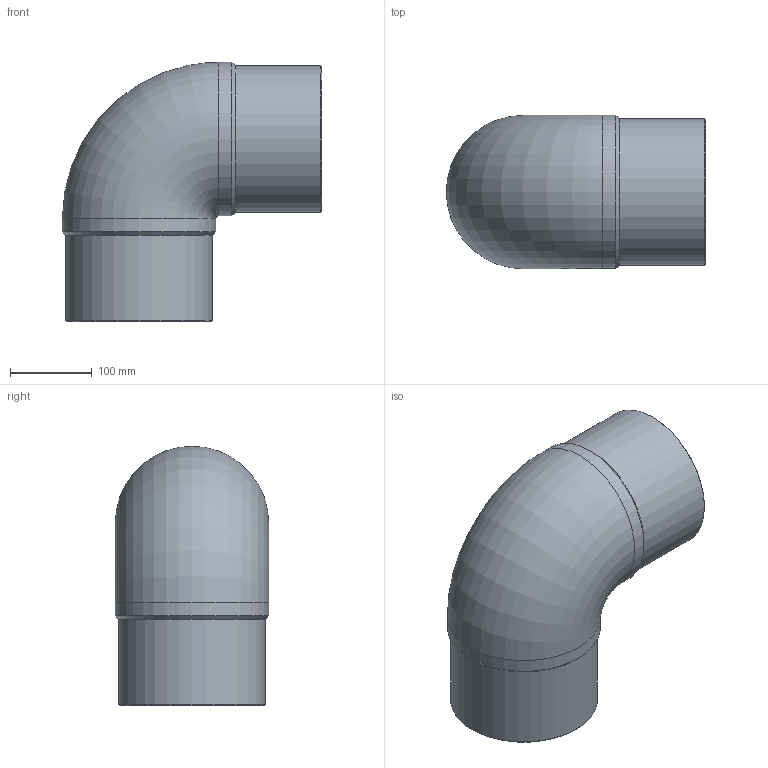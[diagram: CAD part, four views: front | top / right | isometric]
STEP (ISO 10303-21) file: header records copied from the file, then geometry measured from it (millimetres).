
FILE_DESCRIPTION(/* description */ ('Unknown'),/* implementation_level */ '2;1');
FILE_NAME(/* name */ 'G9P180G',/* time_stamp */ '2022-03-03T15:29:29+01:00',/* author */ ('Unknown'),/* organization */ ('Unknown'),/* preprocessor_version */ 'ST-DEVELOPER v18.1',/* originating_system */ 'Solid Edge',/* authorisation */ 'Unknown');
FILE_SCHEMA (('AUTOMOTIVE_DESIGN {1 0 10303 214 3 1 1}'));
Length unit declared in the file: millimetre
Products named in the file (1): G9P180G
Bounding box: 318 x 188 x 318 mm (x, y, z)
Volume: 5123651.4 mm3; surface area: 427952.6 mm2
Topology: 1 solids, 1 shells, 18 faces, 43 edges, 27 vertices
Faces by surface type: cylinder 8, cone 6, plane 2, torus 2
Full cylindrical faces by diameter (mm): 130.8 x2, 142.809 x2, 180 x2, 188 x2
Entity records: 460 total; most frequent: CARTESIAN_POINT 92, DIRECTION 76, ORIENTED_EDGE 46, AXIS2_PLACEMENT_3D 38, EDGE_LOOP 35, FACE_BOUND 35, EDGE_CURVE 23, VERTEX_POINT 22
